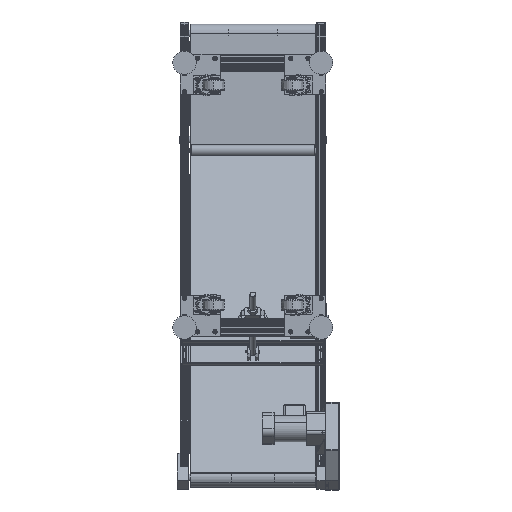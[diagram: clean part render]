
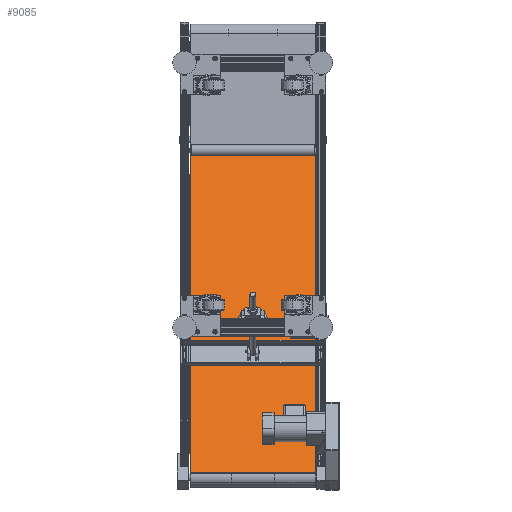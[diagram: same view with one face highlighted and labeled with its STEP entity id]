
A CAD part, front view. The second image highlights one B-rep face of the part: STEP entity #9085.
In plain terms, the highlighted planar face has unit normal (0, -0.86, 0.51) as drawn and (0.51, -0.86, 0) by its records, which use the part's own axes.
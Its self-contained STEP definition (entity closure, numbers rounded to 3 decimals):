
#6359=PLANE('',#65451);
#9085=ADVANCED_FACE('',(#13162),#6359,.F.);
#13162=FACE_OUTER_BOUND('',#16599,.T.);
#16599=EDGE_LOOP('',(#39791,#39792,#39793,#39794));
#21424=LINE('',#101865,#27084);
#21425=LINE('',#101869,#27085);
#21436=LINE('',#101912,#27096);
#21442=LINE('',#101931,#27102);
#27084=VECTOR('',#76225,1.);
#27085=VECTOR('',#76230,1.);
#27096=VECTOR('',#76265,1.);
#27102=VECTOR('',#76283,1.);
#39791=ORIENTED_EDGE('',*,*,#57769,.T.);
#39792=ORIENTED_EDGE('',*,*,#57779,.F.);
#39793=ORIENTED_EDGE('',*,*,#57747,.F.);
#39794=ORIENTED_EDGE('',*,*,#57745,.T.);
#50220=VERTEX_POINT('',#101860);
#50222=VERTEX_POINT('',#101864);
#50224=VERTEX_POINT('',#101870);
#50243=VERTEX_POINT('',#101911);
#57745=EDGE_CURVE('',#50220,#50222,#21424,.T.);
#57747=EDGE_CURVE('',#50220,#50224,#21425,.T.);
#57769=EDGE_CURVE('',#50222,#50243,#21436,.T.);
#57779=EDGE_CURVE('',#50224,#50243,#21442,.T.);
#65451=AXIS2_PLACEMENT_3D('',#101932,#76284,#76285);
#76225=DIRECTION('',(0.,0.,-1.));
#76230=DIRECTION('',(0.86,0.51,0.));
#76265=DIRECTION('',(0.86,0.51,0.));
#76283=DIRECTION('',(0.,0.,-1.));
#76284=DIRECTION('',(-0.51,0.86,0.));
#76285=DIRECTION('',(0.86,0.51,0.));
#101860=CARTESIAN_POINT('',(-1509.175,-707.405,215.));
#101864=CARTESIAN_POINT('',(-1509.175,-707.405,-215.));
#101865=CARTESIAN_POINT('',(-1509.175,-707.405,215.));
#101869=CARTESIAN_POINT('',(-1509.175,-707.405,215.));
#101870=CARTESIAN_POINT('',(-408.563,-54.44,215.));
#101911=CARTESIAN_POINT('',(-408.563,-54.44,-215.));
#101912=CARTESIAN_POINT('',(-1509.175,-707.405,-215.));
#101931=CARTESIAN_POINT('',(-408.563,-54.44,215.));
#101932=CARTESIAN_POINT('',(-1509.175,-707.405,215.));
